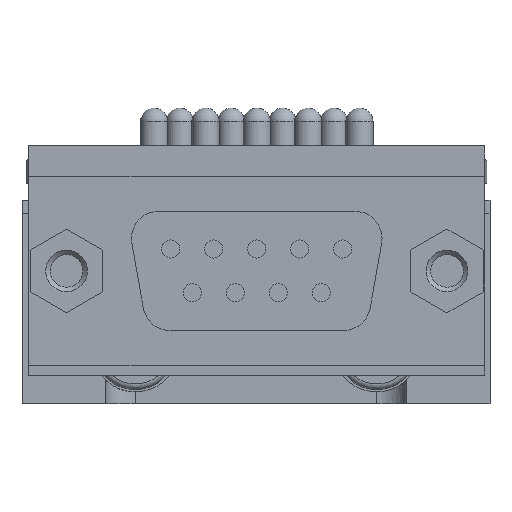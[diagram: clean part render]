
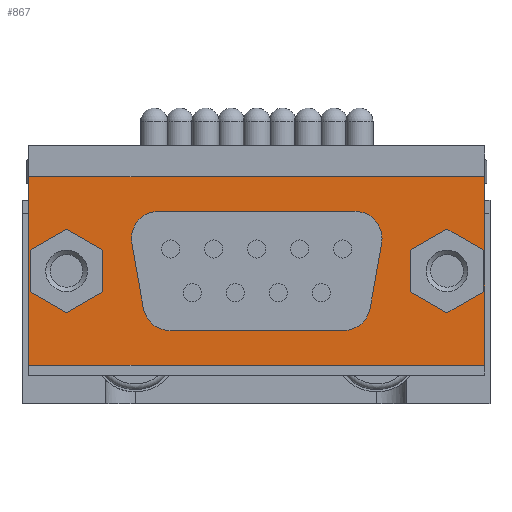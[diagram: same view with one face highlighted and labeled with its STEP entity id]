
A CAD part, front view. The second image highlights one B-rep face of the part: STEP entity #867.
In plain terms, the highlighted planar face has unit normal (0, -1, 0).
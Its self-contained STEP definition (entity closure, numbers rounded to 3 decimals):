
#867=ADVANCED_FACE('',(#1481,#1482,#1869,#1483),#1225,.F.);
#1225=PLANE('',#8883);
#1481=FACE_BOUND('',#2497,.T.);
#1482=FACE_BOUND('',#2498,.T.);
#1483=FACE_BOUND('',#2500,.T.);
#1869=FACE_OUTER_BOUND('',#2499,.T.);
#2497=EDGE_LOOP('',(#5553,#5554,#5555,#5556,#5557,#5558));
#2498=EDGE_LOOP('',(#5559,#5560,#5561,#5562,#5563,#5564));
#2499=EDGE_LOOP('',(#5565,#5566,#5567,#5568));
#2500=EDGE_LOOP('',(#5569,#5570,#5571,#5572,#5573,#5574,#5575,#5576));
#3058=LINE('',#14178,#3682);
#3062=LINE('',#14188,#3686);
#3064=LINE('',#14194,#3688);
#3067=LINE('',#14202,#3691);
#3068=LINE('',#14204,#3692);
#3071=LINE('',#14210,#3695);
#3073=LINE('',#14214,#3697);
#3075=LINE('',#14218,#3699);
#3077=LINE('',#14222,#3701);
#3079=LINE('',#14226,#3703);
#3080=LINE('',#14228,#3704);
#3083=LINE('',#14234,#3707);
#3085=LINE('',#14238,#3709);
#3087=LINE('',#14242,#3711);
#3089=LINE('',#14246,#3713);
#3091=LINE('',#14250,#3715);
#3151=LINE('',#14399,#3775);
#3154=LINE('',#14405,#3778);
#3155=LINE('',#14407,#3779);
#3156=LINE('',#14409,#3780);
#3682=VECTOR('',#10675,1.);
#3686=VECTOR('',#10685,1.);
#3688=VECTOR('',#10693,1.);
#3691=VECTOR('',#10702,1.);
#3692=VECTOR('',#10705,1.);
#3695=VECTOR('',#10710,1.);
#3697=VECTOR('',#10714,1.);
#3699=VECTOR('',#10718,1.);
#3701=VECTOR('',#10722,1.);
#3703=VECTOR('',#10726,1.);
#3704=VECTOR('',#10729,1.);
#3707=VECTOR('',#10734,1.);
#3709=VECTOR('',#10738,1.);
#3711=VECTOR('',#10742,1.);
#3713=VECTOR('',#10746,1.);
#3715=VECTOR('',#10750,1.);
#3775=VECTOR('',#10896,1.);
#3778=VECTOR('',#10901,1.);
#3779=VECTOR('',#10902,1.);
#3780=VECTOR('',#10903,1.);
#5553=ORIENTED_EDGE('',*,*,#7628,.T.);
#5554=ORIENTED_EDGE('',*,*,#7626,.T.);
#5555=ORIENTED_EDGE('',*,*,#7624,.T.);
#5556=ORIENTED_EDGE('',*,*,#7622,.T.);
#5557=ORIENTED_EDGE('',*,*,#7620,.T.);
#5558=ORIENTED_EDGE('',*,*,#7617,.T.);
#5559=ORIENTED_EDGE('',*,*,#7616,.F.);
#5560=ORIENTED_EDGE('',*,*,#7614,.F.);
#5561=ORIENTED_EDGE('',*,*,#7612,.F.);
#5562=ORIENTED_EDGE('',*,*,#7610,.F.);
#5563=ORIENTED_EDGE('',*,*,#7608,.F.);
#5564=ORIENTED_EDGE('',*,*,#7605,.F.);
#5565=ORIENTED_EDGE('',*,*,#7702,.T.);
#5566=ORIENTED_EDGE('',*,*,#7705,.T.);
#5567=ORIENTED_EDGE('',*,*,#7706,.T.);
#5568=ORIENTED_EDGE('',*,*,#7707,.T.);
#5569=ORIENTED_EDGE('',*,*,#7604,.F.);
#5570=ORIENTED_EDGE('',*,*,#7602,.T.);
#5571=ORIENTED_EDGE('',*,*,#7600,.F.);
#5572=ORIENTED_EDGE('',*,*,#7598,.F.);
#5573=ORIENTED_EDGE('',*,*,#7597,.F.);
#5574=ORIENTED_EDGE('',*,*,#7594,.T.);
#5575=ORIENTED_EDGE('',*,*,#7592,.F.);
#5576=ORIENTED_EDGE('',*,*,#7589,.T.);
#6622=VERTEX_POINT('',#14173);
#6623=VERTEX_POINT('',#14174);
#6624=VERTEX_POINT('',#14179);
#6625=VERTEX_POINT('',#14183);
#6626=VERTEX_POINT('',#14187);
#6627=VERTEX_POINT('',#14191);
#6628=VERTEX_POINT('',#14195);
#6629=VERTEX_POINT('',#14199);
#6630=VERTEX_POINT('',#14205);
#6631=VERTEX_POINT('',#14206);
#6632=VERTEX_POINT('',#14211);
#6633=VERTEX_POINT('',#14215);
#6634=VERTEX_POINT('',#14219);
#6635=VERTEX_POINT('',#14223);
#6636=VERTEX_POINT('',#14229);
#6637=VERTEX_POINT('',#14230);
#6638=VERTEX_POINT('',#14235);
#6639=VERTEX_POINT('',#14239);
#6640=VERTEX_POINT('',#14243);
#6641=VERTEX_POINT('',#14247);
#6688=VERTEX_POINT('',#14400);
#6689=VERTEX_POINT('',#14401);
#6690=VERTEX_POINT('',#14406);
#6691=VERTEX_POINT('',#14408);
#7589=EDGE_CURVE('',#6622,#6623,#8146,.T.);
#7592=EDGE_CURVE('',#6622,#6624,#3058,.T.);
#7594=EDGE_CURVE('',#6625,#6624,#8147,.T.);
#7597=EDGE_CURVE('',#6625,#6626,#3062,.T.);
#7598=EDGE_CURVE('',#6626,#6627,#8148,.T.);
#7600=EDGE_CURVE('',#6627,#6628,#3064,.T.);
#7602=EDGE_CURVE('',#6629,#6628,#8149,.T.);
#7604=EDGE_CURVE('',#6629,#6623,#3067,.T.);
#7605=EDGE_CURVE('',#6630,#6631,#3068,.T.);
#7608=EDGE_CURVE('',#6631,#6632,#3071,.T.);
#7610=EDGE_CURVE('',#6632,#6633,#3073,.T.);
#7612=EDGE_CURVE('',#6633,#6634,#3075,.T.);
#7614=EDGE_CURVE('',#6634,#6635,#3077,.T.);
#7616=EDGE_CURVE('',#6635,#6630,#3079,.T.);
#7617=EDGE_CURVE('',#6636,#6637,#3080,.T.);
#7620=EDGE_CURVE('',#6638,#6636,#3083,.T.);
#7622=EDGE_CURVE('',#6639,#6638,#3085,.T.);
#7624=EDGE_CURVE('',#6640,#6639,#3087,.T.);
#7626=EDGE_CURVE('',#6641,#6640,#3089,.T.);
#7628=EDGE_CURVE('',#6637,#6641,#3091,.T.);
#7702=EDGE_CURVE('',#6688,#6689,#3151,.T.);
#7705=EDGE_CURVE('',#6689,#6690,#3154,.T.);
#7706=EDGE_CURVE('',#6690,#6691,#3155,.T.);
#7707=EDGE_CURVE('',#6691,#6688,#3156,.T.);
#8146=CIRCLE('',#8816,1.8);
#8147=CIRCLE('',#8819,1.8);
#8148=CIRCLE('',#8822,1.8);
#8149=CIRCLE('',#8825,1.8);
#8816=AXIS2_PLACEMENT_3D('',#14172,#10669,#10670);
#8819=AXIS2_PLACEMENT_3D('',#14182,#10679,#10680);
#8822=AXIS2_PLACEMENT_3D('',#14190,#10688,#10689);
#8825=AXIS2_PLACEMENT_3D('',#14198,#10697,#10698);
#8883=AXIS2_PLACEMENT_3D('',#14410,#10904,#10905);
#10669=DIRECTION('',(0.,1.,0.));
#10670=DIRECTION('',(0.,0.,-1.));
#10675=DIRECTION('',(1.,0.,0.));
#10679=DIRECTION('',(0.,1.,0.));
#10680=DIRECTION('',(0.,0.,-1.));
#10685=DIRECTION('',(0.174,0.,0.985));
#10688=DIRECTION('',(0.,-1.,0.));
#10689=DIRECTION('',(0.,0.,-1.));
#10693=DIRECTION('',(-1.,0.,0.));
#10697=DIRECTION('',(0.,1.,0.));
#10698=DIRECTION('',(0.,0.,-1.));
#10702=DIRECTION('',(0.174,0.,-0.985));
#10705=DIRECTION('',(0.866,0.,-0.5));
#10710=DIRECTION('',(0.866,0.,0.5));
#10714=DIRECTION('',(0.,0.,1.));
#10718=DIRECTION('',(-0.866,0.,0.5));
#10722=DIRECTION('',(-0.866,0.,-0.5));
#10726=DIRECTION('',(0.,0.,-1.));
#10729=DIRECTION('',(0.866,0.,0.5));
#10734=DIRECTION('',(0.,0.,1.));
#10738=DIRECTION('',(-0.866,0.,0.5));
#10742=DIRECTION('',(-0.866,0.,-0.5));
#10746=DIRECTION('',(0.,0.,-1.));
#10750=DIRECTION('',(0.866,0.,-0.5));
#10896=DIRECTION('',(-1.,0.,0.));
#10901=DIRECTION('',(0.,0.,-1.));
#10902=DIRECTION('',(1.,0.,0.));
#10903=DIRECTION('',(0.,0.,1.));
#10904=DIRECTION('',(0.,1.,0.));
#10905=DIRECTION('',(0.,0.,-1.));
#14172=CARTESIAN_POINT('',(-5.692,-12.975,-12.94));
#14173=CARTESIAN_POINT('',(-5.692,-12.975,-14.74));
#14174=CARTESIAN_POINT('',(-7.464,-12.975,-13.253));
#14178=CARTESIAN_POINT('',(-18.37,-12.975,-14.74));
#14179=CARTESIAN_POINT('',(5.792,-12.975,-14.74));
#14182=CARTESIAN_POINT('',(5.792,-12.975,-12.94));
#14183=CARTESIAN_POINT('',(7.564,-12.975,-13.253));
#14187=CARTESIAN_POINT('',(8.323,-12.975,-8.953));
#14188=CARTESIAN_POINT('',(5.921,-12.975,-22.573));
#14190=CARTESIAN_POINT('',(6.55,-12.975,-8.64));
#14191=CARTESIAN_POINT('',(6.55,-12.975,-6.84));
#14194=CARTESIAN_POINT('',(-18.37,-12.975,-6.84));
#14195=CARTESIAN_POINT('',(-6.45,-12.975,-6.84));
#14198=CARTESIAN_POINT('',(-6.45,-12.975,-8.64));
#14199=CARTESIAN_POINT('',(-8.223,-12.975,-8.953));
#14202=CARTESIAN_POINT('',(-6.932,-12.975,-16.273));
#14204=CARTESIAN_POINT('',(10.25,-12.975,-12.176));
#14205=CARTESIAN_POINT('',(10.25,-12.975,-12.176));
#14206=CARTESIAN_POINT('',(12.65,-12.975,-13.561));
#14210=CARTESIAN_POINT('',(12.65,-12.975,-13.561));
#14211=CARTESIAN_POINT('',(15.05,-12.975,-12.176));
#14214=CARTESIAN_POINT('',(15.05,-12.975,-13.561));
#14215=CARTESIAN_POINT('',(15.05,-12.975,-9.404));
#14218=CARTESIAN_POINT('',(15.05,-12.975,-9.404));
#14219=CARTESIAN_POINT('',(12.65,-12.975,-8.019));
#14222=CARTESIAN_POINT('',(12.65,-12.975,-8.019));
#14223=CARTESIAN_POINT('',(10.25,-12.975,-9.404));
#14226=CARTESIAN_POINT('',(10.25,-12.975,-13.561));
#14228=CARTESIAN_POINT('',(-14.95,-12.975,-9.404));
#14229=CARTESIAN_POINT('',(-14.95,-12.975,-9.404));
#14230=CARTESIAN_POINT('',(-12.55,-12.975,-8.019));
#14234=CARTESIAN_POINT('',(-14.95,-12.975,-13.561));
#14235=CARTESIAN_POINT('',(-14.95,-12.975,-12.176));
#14238=CARTESIAN_POINT('',(-12.55,-12.975,-13.561));
#14239=CARTESIAN_POINT('',(-12.55,-12.975,-13.561));
#14242=CARTESIAN_POINT('',(-10.15,-12.975,-12.176));
#14243=CARTESIAN_POINT('',(-10.15,-12.975,-12.176));
#14246=CARTESIAN_POINT('',(-10.15,-12.975,-13.561));
#14247=CARTESIAN_POINT('',(-10.15,-12.975,-9.404));
#14250=CARTESIAN_POINT('',(-12.55,-12.975,-8.019));
#14399=CARTESIAN_POINT('',(15.15,-12.975,-4.54));
#14400=CARTESIAN_POINT('',(15.15,-12.975,-4.54));
#14401=CARTESIAN_POINT('',(-15.05,-12.975,-4.54));
#14405=CARTESIAN_POINT('',(-15.05,-12.975,-4.54));
#14406=CARTESIAN_POINT('',(-15.05,-12.975,-17.04));
#14407=CARTESIAN_POINT('',(-15.05,-12.975,-17.04));
#14408=CARTESIAN_POINT('',(15.15,-12.975,-17.04));
#14409=CARTESIAN_POINT('',(15.15,-12.975,-17.04));
#14410=CARTESIAN_POINT('',(15.15,-12.975,-4.54));
